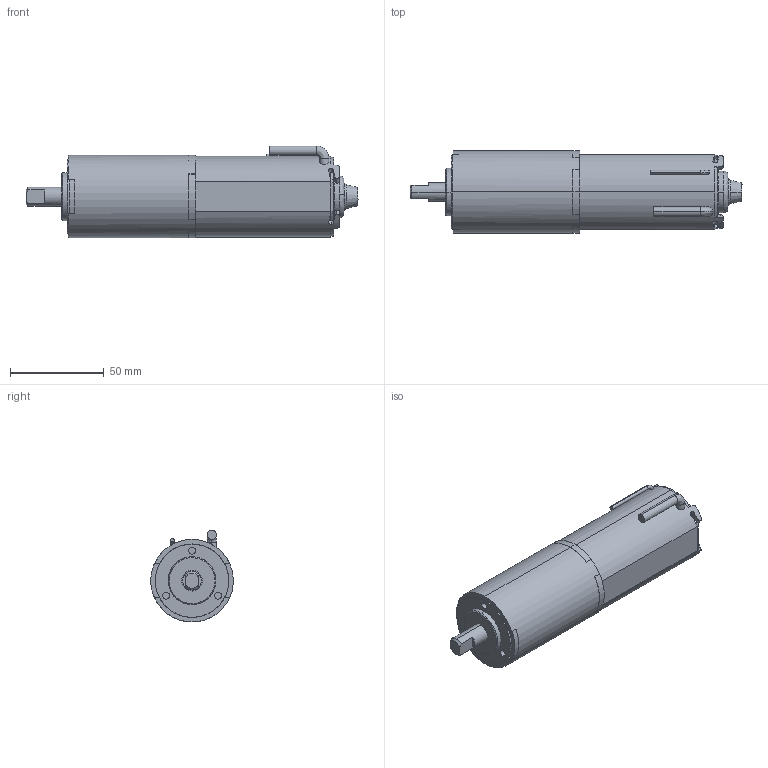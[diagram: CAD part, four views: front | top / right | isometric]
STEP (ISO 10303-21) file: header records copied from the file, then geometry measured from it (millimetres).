
FILE_DESCRIPTION (( 'STEP AP214' ), '1' );
FILE_NAME ('404636_GMPI.STEP', '2016-10-24T06:43:30', ( 'EDV' ), ( 'Hewlett-Packard Company' ), 'SwSTEP 2.0', 'SolidWorks 2016', '' );
FILE_SCHEMA (( 'AUTOMOTIVE_DESIGN' ));
Length unit declared in the file: millimetre
Products named in the file (1): 404636_GMPI
Bounding box: 177 x 43.91 x 49 mm (x, y, z)
Volume: 214440 mm3; surface area: 37297.3 mm2
Topology: 6 solids, 6 shells, 216 faces, 591 edges, 393 vertices
Faces by surface type: cylinder 100, plane 95, bspline 13, cone 8
Entity records: 8036 total; most frequent: CARTESIAN_POINT 2502, ORIENTED_EDGE 1182, DIRECTION 1125, EDGE_CURVE 591, AXIS2_PLACEMENT_3D 423, VERTEX_POINT 393, VECTOR 279, LINE 279
